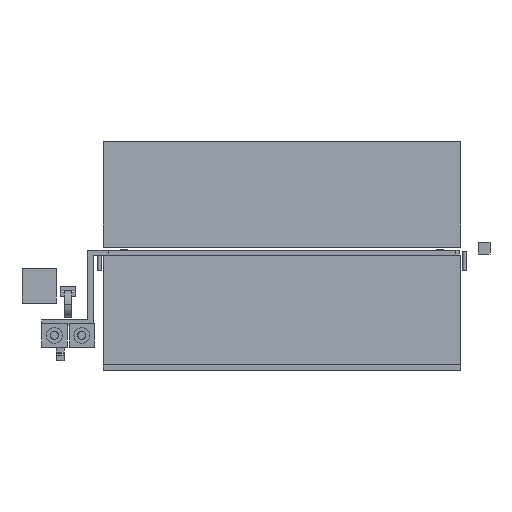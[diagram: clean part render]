
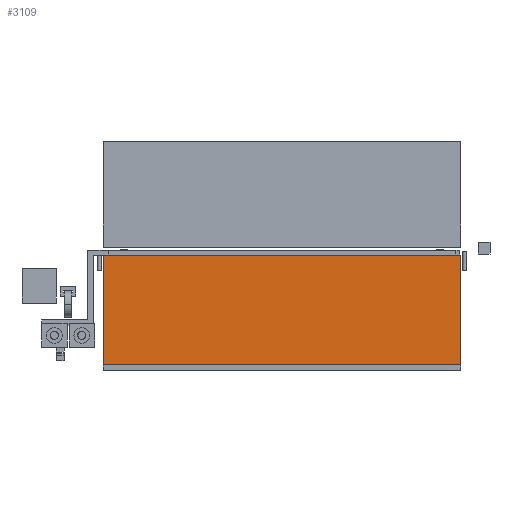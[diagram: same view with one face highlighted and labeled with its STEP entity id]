
A CAD part, front view. The second image highlights one B-rep face of the part: STEP entity #3109.
In plain terms, the highlighted planar face has unit normal (0, -1, 0).
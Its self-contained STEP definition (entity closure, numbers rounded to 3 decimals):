
#3033 = EDGE_CURVE('',#3034,#3036,#3038,.T.);
#3034 = VERTEX_POINT('',#3035);
#3035 = CARTESIAN_POINT('',(-12.,-212.,22.));
#3036 = VERTEX_POINT('',#3037);
#3037 = CARTESIAN_POINT('',(-12.,-212.,134.));
#3038 = LINE('',#3039,#3040);
#3039 = CARTESIAN_POINT('',(-12.,-212.,22.));
#3040 = VECTOR('',#3041,1.);
#3041 = DIRECTION('',(0.,0.,1.));
#3073 = EDGE_CURVE('',#3074,#3076,#3078,.T.);
#3074 = VERTEX_POINT('',#3075);
#3075 = CARTESIAN_POINT('',(352.5,-212.,22.));
#3076 = VERTEX_POINT('',#3077);
#3077 = CARTESIAN_POINT('',(352.5,-212.,134.));
#3078 = LINE('',#3079,#3080);
#3079 = CARTESIAN_POINT('',(352.5,-212.,22.));
#3080 = VECTOR('',#3081,1.);
#3081 = DIRECTION('',(0.,0.,1.));
#3109 = ADVANCED_FACE('',(#3110),#3126,.F.);
#3110 = FACE_BOUND('',#3111,.F.);
#3111 = EDGE_LOOP('',(#3112,#3118,#3119,#3125));
#3112 = ORIENTED_EDGE('',*,*,#3113,.F.);
#3113 = EDGE_CURVE('',#3034,#3074,#3114,.T.);
#3114 = LINE('',#3115,#3116);
#3115 = CARTESIAN_POINT('',(-12.,-212.,22.));
#3116 = VECTOR('',#3117,1.);
#3117 = DIRECTION('',(1.,0.,0.));
#3118 = ORIENTED_EDGE('',*,*,#3033,.T.);
#3119 = ORIENTED_EDGE('',*,*,#3120,.T.);
#3120 = EDGE_CURVE('',#3036,#3076,#3121,.T.);
#3121 = LINE('',#3122,#3123);
#3122 = CARTESIAN_POINT('',(-12.,-212.,134.));
#3123 = VECTOR('',#3124,1.);
#3124 = DIRECTION('',(1.,0.,0.));
#3125 = ORIENTED_EDGE('',*,*,#3073,.F.);
#3126 = PLANE('',#3127);
#3127 = AXIS2_PLACEMENT_3D('',#3128,#3129,#3130);
#3128 = CARTESIAN_POINT('',(-12.,-212.,22.));
#3129 = DIRECTION('',(0.,1.,0.));
#3130 = DIRECTION('',(0.,0.,1.));
